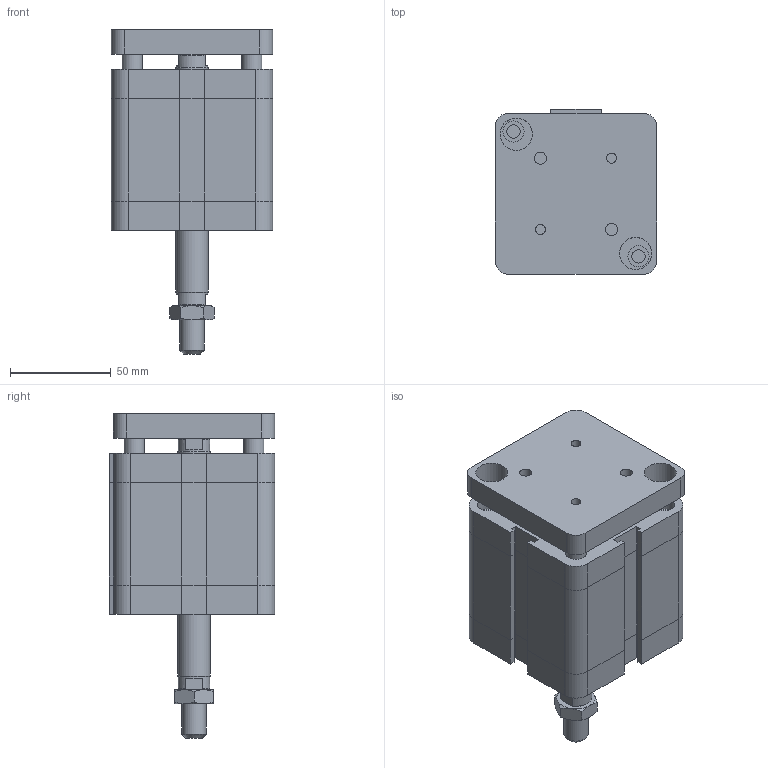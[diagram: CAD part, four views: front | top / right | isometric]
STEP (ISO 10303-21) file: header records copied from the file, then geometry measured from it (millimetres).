
FILE_DESCRIPTION((''),'2;1');
FILE_NAME('I:\Area Tecnica\Disegni\VARIE-3D\Componenti\EUROPE\15##_###_####_09_#\1581_63_0030_09_1.iam.stp','2009-04-20T15:47:19',(''),(''),'Autodesk Inventor 2009','Autodesk Inventor 2009','');
FILE_SCHEMA(('AUTOMOTIVE_DESIGN { 1 0 10303 214 1 1 1 1 }'));
Length unit declared in the file: millimetre
Products named in the file (4): 1581_63_0030_09_1; 1581_63_0030_08_1_C; 1561_63_0030_09_1_SA; DBFM12
Assembly tree (3 placements, depth 2):
  1581_63_0030_09_1
    1581_63_0030_08_1_C
    1561_63_0030_09_1_SA
    DBFM12
Bounding box: 80 x 82 x 161 mm (x, y, z)
Volume: 575061.4 mm3; surface area: 78767.4 mm2
Topology: 3 solids, 3 shells, 209 faces, 470 edges, 287 vertices
Faces by surface type: plane 120, bspline 45, cylinder 23, cone 21
Full cylindrical faces by diameter (mm): 10 x2, 10.8 x1, 12 x1, 15.6 x2, 16 x1
Entity records: 5963 total; most frequent: CARTESIAN_POINT 1453, DIRECTION 838, ORIENTED_EDGE 834, EDGE_CURVE 417, AXIS2_PLACEMENT_3D 282, EDGE_LOOP 282, VECTOR 274, LINE 274
